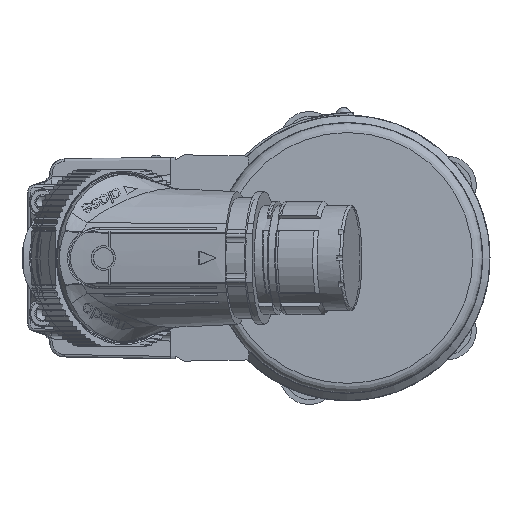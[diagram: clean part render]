
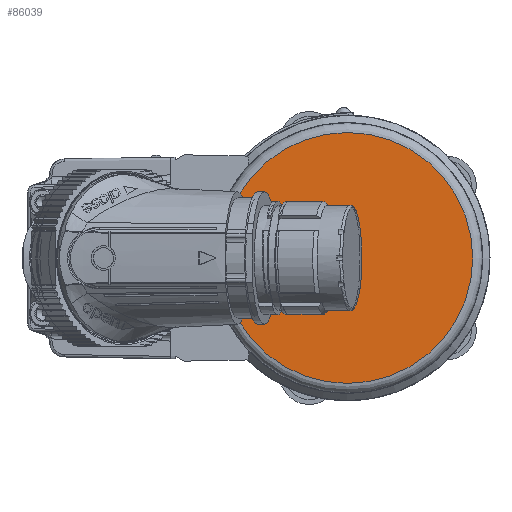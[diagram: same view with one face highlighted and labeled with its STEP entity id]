
A CAD part, left-side view. The second image highlights one B-rep face of the part: STEP entity #86039.
In plain terms, the highlighted planar face has unit normal (-1, 0, 0).
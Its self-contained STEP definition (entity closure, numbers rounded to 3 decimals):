
#1163 = EDGE_CURVE ( 'NONE', #99211, #99211, #21954, .T. ) ;
#20591 = AXIS2_PLACEMENT_3D ( 'NONE', #83742, #83400, #42923 ) ;
#21954 = CIRCLE ( 'NONE', #93220, 25.5 ) ;
#34391 = ORIENTED_EDGE ( 'NONE', *, *, #1163, .T. ) ;
#35195 = EDGE_LOOP ( 'NONE', ( #34391 ) ) ;
#42923 = DIRECTION ( 'NONE',  ( 0., 0., 1. ) ) ;
#48548 = CARTESIAN_POINT ( 'NONE',  ( -371., 0., 25.5 ) ) ;
#67510 = CARTESIAN_POINT ( 'NONE',  ( -371., 0., 0. ) ) ;
#67875 = DIRECTION ( 'NONE',  ( -1., 0., 0. ) ) ;
#74861 = FACE_OUTER_BOUND ( 'NONE', #35195, .T. ) ;
#83400 = DIRECTION ( 'NONE',  ( -1., 0., 0. ) ) ;
#83742 = CARTESIAN_POINT ( 'NONE',  ( -371., 0., 0. ) ) ;
#86039 = ADVANCED_FACE ( 'NONE', ( #74861 ), #92022, .T. ) ;
#88051 = DIRECTION ( 'NONE',  ( 0., 0., 1. ) ) ;
#92022 = PLANE ( 'NONE',  #20591 ) ;
#93220 = AXIS2_PLACEMENT_3D ( 'NONE', #67510, #67875, #88051 ) ;
#99211 = VERTEX_POINT ( 'NONE', #48548 ) ;
